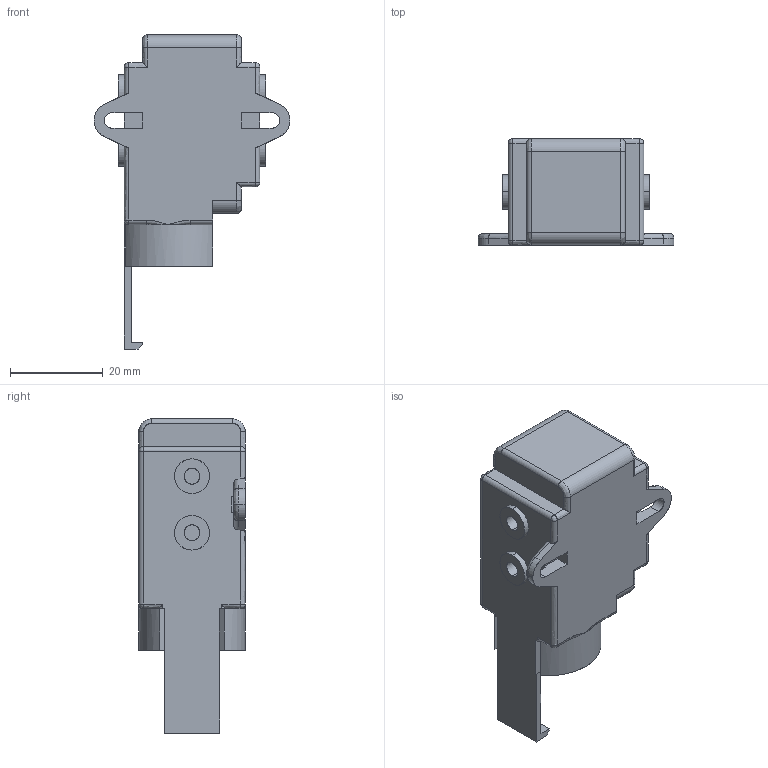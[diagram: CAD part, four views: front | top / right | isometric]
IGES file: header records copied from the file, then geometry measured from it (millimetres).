
Start section: SolidWorks IGES file using analytic representation for surfaces
Global section: file name: C:\Users\AndreBernot\Downloads\K-RACER-L_3D_SW\K-RACER-L_3D_SW\TAM-70167_corps.IGS; native system: SolidWorks 2015; preprocessor: SolidWorks 2015; author: AndreBernot; date: 170922.151731; units: millimetre
Bounding box: 42.3 x 23 x 67.9 mm (x, y, z)
Surface area: 7813.6 mm2 (no closed solid volume)
Topology: 0 solids, 0 shells, 147 faces, 1729 edges, 1719 vertices
Faces by surface type: revolution 77, bspline 70
